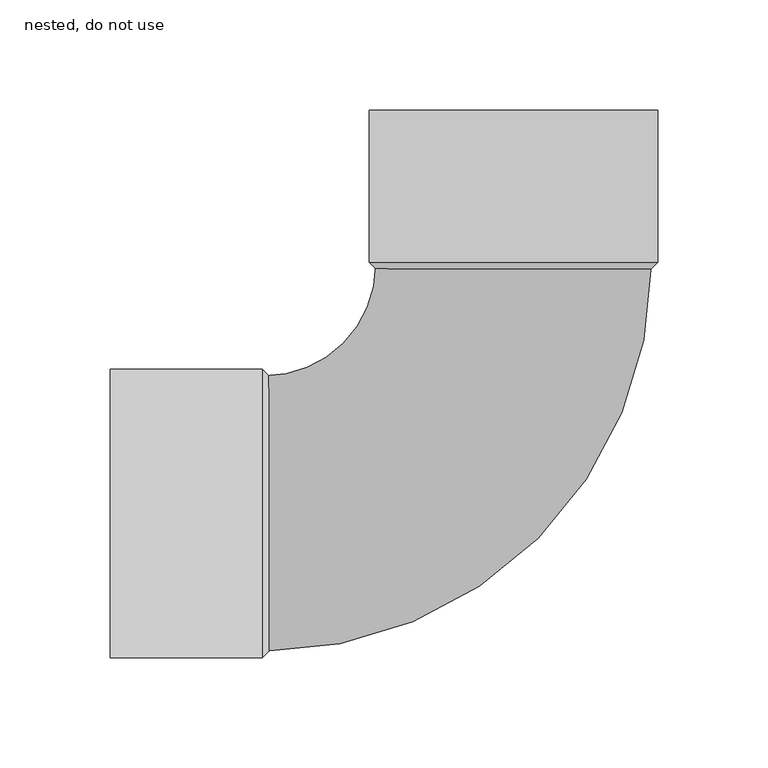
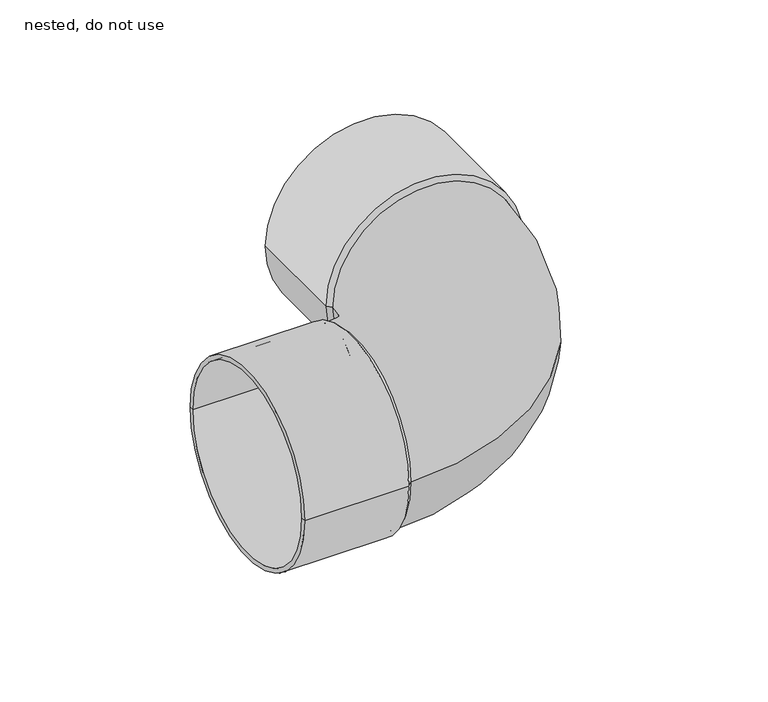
"""IFC4 building model written with IfcOpenShell, lengths in millimetres: pipe fitting geometry, NLRS_52_PIF_UN_Vacurain Flex bocht 2LV_SH_Dyka : nested, do not use."""

from ifc_helpers import new_model, si_unit, point, frame, origin, place, context, project, spatial, polyline, circle_curve, ellipse_curve, trimmed, source, transform, mapped, element, save
from ifc_brep_helpers import plane_surface, cylinder_surface, revolved_surface, advanced_brep


def nested_do_not_use_62e140e3(model_context):
    return source(origin(), model_context, "Body", "AdvancedBrep", [
        advanced_brep(
        [(-183.0, 65.4, 0.0), (-183.0, -65.4, 0.0), (-183.0, -62.5, 0.0), (-183.0, 62.5, 0.0), (-114.0, 65.4, 0.0), (-114.0, -65.4, 0.0), (-111.1, 62.5, 0.0), (-111.1, -62.5, 0.0)],
        [
            (0, 1, circle_curve(frame((-183.0, 0.0, 0.0), z_axis=(-1.0, 0.0, 0.0), x_axis=(0.0, -1.0000000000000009, 0.0)), 65.4)),
            (1, 2),
            (2, 3, circle_curve(frame((-183.0, 0.0, 0.0), z_axis=(1.0, 0.0, 0.0), x_axis=(0.0, -1.0000000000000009, 0.0)), 62.5)),
            (3, 0),
            (1, 0, circle_curve(frame((-183.0, 0.0, 0.0), z_axis=(-1.0, 0.0, 0.0), x_axis=(0.0, -1.0000000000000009, 0.0)), 65.4)),
            (3, 2, circle_curve(frame((-183.0, 0.0, 0.0), z_axis=(1.0, 0.0, 0.0), x_axis=(0.0, -1.0000000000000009, 0.0)), 62.5)),
            (4, 5, circle_curve(frame((-114.0, 0.0, 0.0), z_axis=(-1.0, 0.0, 0.0), x_axis=(0.0, -1.0000000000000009, 0.0)), 65.4)),
            (5, 1),
            (0, 4),
            (5, 4, circle_curve(frame((-114.0, 0.0, 0.0), z_axis=(-1.0, 0.0, 0.0), x_axis=(0.0, -1.0000000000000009, 0.0)), 65.4)),
            (6, 7, circle_curve(frame((-111.1, 0.0, 0.0), z_axis=(-1.0, 0.0, 0.0), x_axis=(0.0, -1.0000000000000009, 0.0)), 62.5)),
            (7, 5),
            (4, 6),
            (7, 6, circle_curve(frame((-111.1, 0.0, 0.0), z_axis=(-1.0, 0.0, 0.0), x_axis=(0.0, -1.0000000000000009, 0.0)), 62.5)),
            (2, 7),
            (6, 3),
        ],
        [
            plane_surface(frame((-183.0, 0.0, 0.0), z_axis=(-1.0, 0.0, 0.0), x_axis=(0.0, -1.0, 0.0))),
            cylinder_surface(frame((-114.0, 0.0, 0.0), z_axis=(1.0000000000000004, 0.0, 0.0), x_axis=(0.0, -1.0000000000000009, 0.0)), 65.4),
            revolved_surface(polyline([(-114.0, -65.4, 0.0), (-111.1, -62.5, 0.0)]), (-114.0, 0.0, 0.0), (1.0000000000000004, 0.0, 0.0)),
            revolved_surface(polyline([(-111.1, -62.50000000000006, 0.0), (-183.00000000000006, -62.50000000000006, 0.0)]), (-114.0, 0.0, 0.0), (1.0000000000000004, 0.0, 0.0)),
        ],
        [
            (0, [[1, 2, 3, 4]]),
            (0, [[5, -4, 6, -2]]),
            (1, [[7, 8, -1, 9]]),
            (1, [[10, -9, -5, -8]]),
            (2, [[11, 12, -7, 13]]),
            (2, [[14, -13, -10, -12]]),
            (3, [[-3, 15, -11, 16]]),
            (3, [[-6, -16, -14, -15]]),
        ],
    ),
        advanced_brep(
        [(65.4, 183.0, 0.0), (-65.4, 183.0, 0.0), (-62.5, 183.0, 0.0), (62.5, 183.0, 0.0), (65.4, 114.0, 0.0), (-65.4, 114.0, 0.0), (62.5, 111.1, 0.0), (-62.5, 111.1, 0.0)],
        [
            (0, 1, circle_curve(frame((0.0, 183.0, 0.0), z_axis=(0.0, 1.0, 0.0), x_axis=(-1.0000000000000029, 0.0, 0.0)), 65.4)),
            (1, 2),
            (2, 3, circle_curve(frame((0.0, 183.0, 0.0), z_axis=(0.0, -1.0, 0.0), x_axis=(-1.0000000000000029, 0.0, 0.0)), 62.5)),
            (3, 0),
            (1, 0, circle_curve(frame((0.0, 183.0, 0.0), z_axis=(0.0, 1.0, 0.0), x_axis=(-1.0000000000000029, 0.0, 0.0)), 65.4)),
            (3, 2, circle_curve(frame((0.0, 183.0, 0.0), z_axis=(0.0, -1.0, 0.0), x_axis=(-1.0000000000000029, 0.0, 0.0)), 62.5)),
            (4, 5, circle_curve(frame((0.0, 114.0, 0.0), z_axis=(0.0, 1.0, 0.0), x_axis=(-1.0000000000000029, 0.0, 0.0)), 65.4)),
            (5, 1),
            (0, 4),
            (5, 4, circle_curve(frame((0.0, 114.0, 0.0), z_axis=(0.0, 1.0, 0.0), x_axis=(-1.0000000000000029, 0.0, 0.0)), 65.4)),
            (6, 7, circle_curve(frame((0.0, 111.1, 0.0), z_axis=(0.0, 1.0, 0.0), x_axis=(-1.0000000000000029, 0.0, 0.0)), 62.5)),
            (7, 5),
            (4, 6),
            (7, 6, circle_curve(frame((0.0, 111.1, 0.0), z_axis=(0.0, 1.0, 0.0), x_axis=(-1.0000000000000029, 0.0, 0.0)), 62.5)),
            (2, 7),
            (6, 3),
        ],
        [
            plane_surface(frame((0.0, 183.0, 0.0), z_axis=(0.0, 1.0, 0.0), x_axis=(-1.0, 0.0, 0.0))),
            cylinder_surface(frame((0.0, 114.0, 0.0), z_axis=(0.0, -1.0000000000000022, 0.0), x_axis=(-1.0000000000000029, 0.0, 0.0)), 65.4),
            revolved_surface(polyline([(-65.4, 114.0, 0.0), (-62.5, 111.1, 0.0)]), (0.0, 114.0, 0.0), (0.0, -1.0000000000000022, 0.0)),
            revolved_surface(polyline([(-62.50000000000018, 111.09999999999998, 0.0), (-62.50000000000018, 183.0000000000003, 0.0)]), (0.0, 114.0, 0.0), (0.0, -1.0000000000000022, 0.0)),
        ],
        [
            (0, [[1, 2, 3, 4]]),
            (0, [[5, -4, 6, -2]]),
            (1, [[7, 8, -1, 9]]),
            (1, [[10, -9, -5, -8]]),
            (2, [[11, 12, -7, 13]]),
            (2, [[14, -13, -10, -12]]),
            (3, [[-3, 15, -11, 16]]),
            (3, [[-6, -16, -14, -15]]),
        ],
    ),
        advanced_brep(
        [(-114.0, -62.5, 0.0), (-114.0, 62.5, 0.0), (-113.0, -62.5, 0.0), (-113.0, 62.5, 0.0), (-62.5, 113.0, 0.0), (62.5, 113.0, 0.0), (62.5, 114.0, 0.0), (-62.5, 114.0, 0.0)],
        [
            (0, 1, circle_curve(frame((-114.0, 0.0, 0.0), z_axis=(-1.0, 0.0, 0.0), x_axis=(0.0, 1.0, 0.0)), 62.5)),
            (1, 0, circle_curve(frame((-114.0, 0.0, 0.0), z_axis=(-1.0, 0.0, 0.0), x_axis=(0.0, 1.0, 0.0)), 62.5)),
            (0, 2),
            (2, 3, circle_curve(frame((-113.0, 0.0, 0.0), z_axis=(-1.0, 0.0, 0.0), x_axis=(0.0, 1.0, 0.0)), 62.5)),
            (3, 1),
            (3, 2, circle_curve(frame((-113.0, 0.0, 0.0), z_axis=(-1.0, 0.0, 0.0), x_axis=(0.0, 1.0, 0.0)), 62.5)),
            (4, 3, circle_curve(frame((-113.0, 113.0, 0.0), z_axis=(0.0, 0.0, -1.0), x_axis=(0.0, -1.0, 0.0)), 50.5)),
            (2, 5, circle_curve(frame((-113.0, 113.0, 0.0), z_axis=(0.0, 0.0, 1.0), x_axis=(0.0, -1.0, 0.0)), 175.5)),
            (5, 4, circle_curve(frame((0.0, 113.0, 0.0), z_axis=(0.0, -1.0, 0.0), x_axis=(-1.0, 0.0, 0.0)), 62.5)),
            (4, 5, circle_curve(frame((0.0, 113.0, 0.0), z_axis=(0.0, -1.0, 0.0), x_axis=(-1.0, 0.0, 0.0)), 62.5)),
            (6, 7, circle_curve(frame((0.0, 114.0, 0.0), z_axis=(0.0, 1.0, 0.0), x_axis=(-1.0, 0.0, 0.0)), 62.5)),
            (7, 6, circle_curve(frame((0.0, 114.0, 0.0), z_axis=(0.0, 1.0, 0.0), x_axis=(-1.0, 0.0, 0.0)), 62.5)),
            (5, 6),
            (7, 4),
        ],
        [
            plane_surface(frame((-114.0, 0.0, 0.0), z_axis=(-1.0, 0.0, 0.0), x_axis=(0.0, 0.0, 1.0))),
            cylinder_surface(frame((-114.0, 0.0, 0.0), z_axis=(-1.0, 0.0, 0.0), x_axis=(0.0, 1.0, 0.0)), 62.5),
            revolved_surface(trimmed(ellipse_curve(frame((-113.0, 0.0, 0.0), z_axis=(-1.0, 0.0, 0.0), x_axis=(0.0, 1.0, 0.0)), 62.5, 62.5), [point((-113.0, -62.5, 0.0))], [point((-113.0, 62.5, 0.0))], True, "CARTESIAN"), (-113.0, 113.0, 0.0), (0.0, 0.0, 1.0)),
            revolved_surface(trimmed(ellipse_curve(frame((-113.0, 0.0, 0.0), z_axis=(-1.0, 0.0, 0.0), x_axis=(0.0, 1.0, 0.0)), 62.5, 62.5), [point((-113.0, 62.5, 0.0))], [point((-113.0, -62.5, 0.0))], True, "CARTESIAN"), (-113.0, 113.0, 0.0), (0.0, 0.0, 1.0)),
            plane_surface(frame((0.0, 114.0, 0.0), z_axis=(0.0, 1.0, 0.0), x_axis=(0.0, 0.0, 1.0))),
            cylinder_surface(frame((0.0, 113.0, 0.0), z_axis=(0.0, -1.0, 0.0), x_axis=(-1.0, 0.0, 0.0)), 62.5),
        ],
        [
            (0, [[1, 2]]),
            (1, [[-1, 3, 4, 5]]),
            (1, [[-2, -5, 6, -3]]),
            (2, [[7, -4, 8, 9]]),
            (3, [[-8, -6, -7, 10]]),
            (4, [[11, 12]]),
            (5, [[-9, 13, -12, 14]]),
            (5, [[-10, -14, -11, -13]]),
        ],
    ),
    ])


if __name__ == "__main__":
    model = new_model("IFC4")
    model_context = context("Model", 3, world=origin())
    ifc_project = project(units=[si_unit("LENGTHUNIT", "METRE", prefix="MILLI")], contexts=[model_context])
    site = spatial("IfcSite", under=ifc_project)
    building = spatial("IfcBuilding", under=site)
    placement = place(None, origin())
    nested_do_not_use_shape = nested_do_not_use_62e140e3(model_context)
    element("IfcPipeFitting", 1, ObjectType="NLRS_52_PIF_UN_Vacurain Flex bocht 2LV_SH_Dyka : nested, do not use", at=placement, inside=building, context=model_context, shape_type="MappedRepresentation", body=[
        mapped(nested_do_not_use_shape, transform((0.0, 0.0, 0.0), x_axis=(1.0, 0.0, 0.0), y_axis=(0.0, 1.0, 0.0), z_axis=(0.0, 0.0, 1.0))),
    ])
    save(model, "model.ifc")
